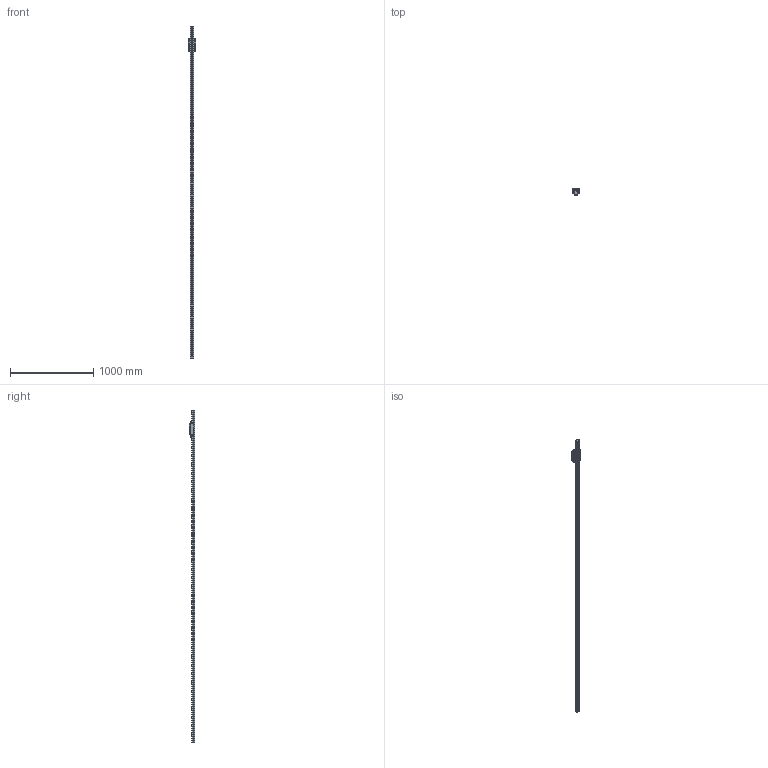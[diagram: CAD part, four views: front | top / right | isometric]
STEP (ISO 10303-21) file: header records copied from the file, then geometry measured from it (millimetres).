
FILE_DESCRIPTION((''),'2;1');
FILE_NAME('BRS45-LR_CUSTOMER_ASM_ASM','2020-11-24T15:25:25',('TWVS2025'),(''),'CREO PARAMETRIC BY PTC INC, 2018420','CREO PARAMETRIC BY PTC INC, 2018420','');
FILE_SCHEMA(('CONFIG_CONTROL_DESIGN'));
Products named in the file (74): BC-BRD45-LR_ASM_1_1; BC-BRD45-LR_ASM_1_2; BC-BRD45-LR_ASM_1_3; BC-BRD45-LR_ASM_1_4; BC-BRD45-LR_ASM_1_5; BC-BRD45-LR_ASM_1_6; BC-BRD45-LR_ASM_1_7; BC-BRD45-LR_ASM_1_8; BC-BRD45-LR_ASM_1_9; BC-BRD45-LR_ASM_1_10; BC-BRD45-LR_ASM_1_11; BC-BRD45-LR_ASM_1_12; BC-BRD45-LR_ASM_1_13; BC-BRD45-LR_ASM_1_14; BC-BRD45-LR_ASM_1_15; BC-BRD45-LR_ASM_1_16; BC-BRD45-LR_ASM_1_17; BC-BRD45-LR_ASM_1_18; BC-BRD45-LR_ASM_1_19; BC-BRD45-LR_ASM_1_20; BC-BRD45-LR_ASM_1_21; BC-BRD45-LR_ASM_1_22; BC-BRD45-LR_ASM_1_23; BC-BRD45-LR_ASM_1_24; BC-BRD45-LR_ASM_1_25; BC-BRD45-LR_ASM_1_26; BC-BRD45-LR_ASM_1_27; BC-BRD45-LR_ASM_1_28; BC-BRD45-LR_ASM_1_29; BC-BRD45-LR_ASM_1_30; BC-BRD45-LR_ASM_1_31; BC-BRD45-LR_ASM_1_32; BC-BRD45-LR_ASM_1_33; BC-BRD45-LR_ASM_1_34; BC-BRD45-LR_ASM_1_35; BC-BRD45-LR_ASM_1_36; BC-BRD45-LR_ASM_1_37; BC-BRD45-LR_ASM_1_38; BC-BRD45-LR_ASM_1_39; BC-BRD45-LR_ASM_1_40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
Assembly tree (73 placements, depth 4):
  BRS45-LR_CUSTOMER_ASM_ASM
    BRS45-LR_CUSTOMER_ASM_1_ASM
      BC-BRD45-LR_ASM_1_ASM
        BC-BRD45-LR_ASM_1_1
        BC-BRD45-LR_ASM_1_2
        BC-BRD45-LR_ASM_1_3
        BC-BRD45-LR_ASM_1_4
        BC-BRD45-LR_ASM_1_5
        BC-BRD45-LR_ASM_1_6
        BC-BRD45-LR_ASM_1_7
        BC-BRD45-LR_ASM_1_8
        BC-BRD45-LR_ASM_1_9
        BC-BRD45-LR_ASM_1_10
        BC-BRD45-LR_ASM_1_11
        BC-BRD45-LR_ASM_1_12
        BC-BRD45-LR_ASM_1_13
        BC-BRD45-LR_ASM_1_14
        BC-BRD45-LR_ASM_1_15
        BC-BRD45-LR_ASM_1_16
        BC-BRD45-LR_ASM_1_17
        BC-BRD45-LR_ASM_1_18
        BC-BRD45-LR_ASM_1_19
        BC-BRD45-LR_ASM_1_20
        BC-BRD45-LR_ASM_1_21
        BC-BRD45-LR_ASM_1_22
        BC-BRD45-LR_ASM_1_23
        BC-BRD45-LR_ASM_1_24
        BC-BRD45-LR_ASM_1_25
        BC-BRD45-LR_ASM_1_26
        BC-BRD45-LR_ASM_1_27
        BC-BRD45-LR_ASM_1_28
        BC-BRD45-LR_ASM_1_29
        BC-BRD45-LR_ASM_1_30
        BC-BRD45-LR_ASM_1_31
        BC-BRD45-LR_ASM_1_32
        BC-BRD45-LR_ASM_1_33
        BC-BRD45-LR_ASM_1_34
        BC-BRD45-LR_ASM_1_35
        BC-BRD45-LR_ASM_1_36
        BC-BRD45-LR_ASM_1_37
        BC-BRD45-LR_ASM_1_38
        BC-BRD45-LR_ASM_1_39
        BC-BRD45-LR_ASM_1_40
        BC-BRD45-LR_ASM_1_41
        BC-BRD45-LR_ASM_1_42
        BC-BRD45-LR_ASM_1_43
        BC-BRD45-LR_ASM_1_44
        BC-BRD45-LR_ASM_1_45
        BC-BRD45-LR_ASM_1_46
        BC-BRD45-LR_ASM_1_47
        BC-BRD45-LR_ASM_1_48
        BC-BRD45-LR_ASM_1_49
        BC-BRD45-LR_ASM_1_50
        BC-BRD45-LR_ASM_1_51
        BC-BRD45-LR_ASM_1_52
        BC-BRD45-LR_ASM_1_53
        BC-BRD45-LR_ASM_1_54
        BC-BRD45-LR_ASM_1_55
        BC-BRD45-LR_ASM_1_56
        BC-BRD45-LR_ASM_1_57
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Bounding box: 85.95 x 70 x 4000 mm (x, y, z)
Volume: 5968850.4 mm3; surface area: 891844.1 mm2
Topology: 71 solids, 72 shells, 1646 faces, 4825 edges, 3084 vertices
Faces by surface type: plane 689, cylinder 487, sphere 228, bspline 112, cone 90, torus 36, extrusion 4
Entity records: 80704 total; most frequent: CARTESIAN_POINT 37104, ORIENTED_EDGE 8994, DIRECTION 8833, EDGE_CURVE 4497, AXIS2_PLACEMENT_3D 3339, VERTEX_POINT 3084, VECTOR 2155, LINE 2151
